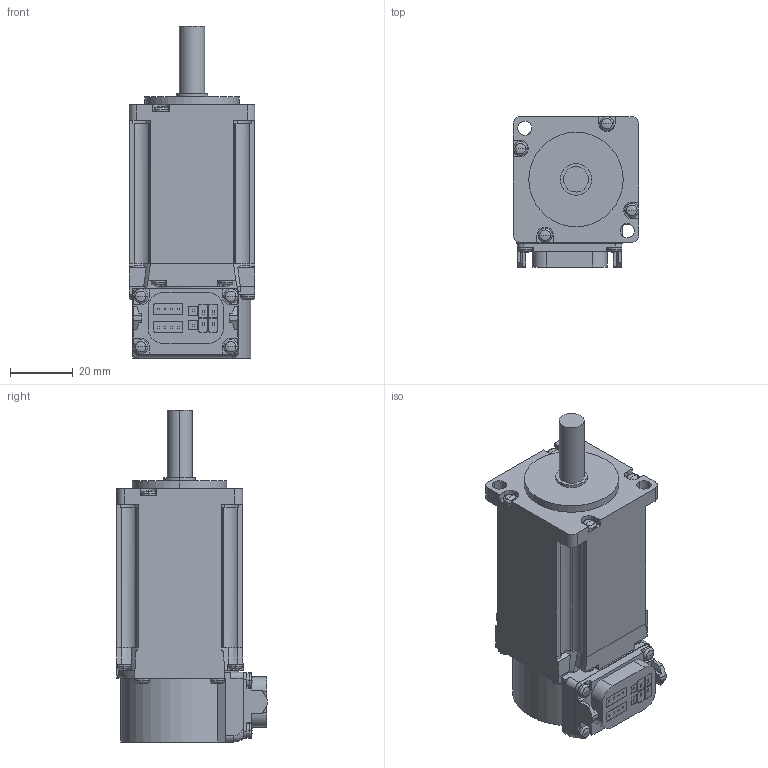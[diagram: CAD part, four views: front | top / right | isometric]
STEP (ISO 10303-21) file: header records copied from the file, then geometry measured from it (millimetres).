
FILE_DESCRIPTION((''),'2;1');
FILE_NAME('HK-KT1M3W_-_ASM','2019-01-15T',('XE90682'),(''),'CREO PARAMETRIC BY PTC INC, 2016380','CREO PARAMETRIC BY PTC INC, 2016380','');
FILE_SCHEMA(('CONFIG_CONTROL_DESIGN'));
Length unit declared in the file: millimetre
Products named in the file (1): HK-KT1M3W_-_ASM
Bounding box: 40 x 47.85 x 105.5 mm (x, y, z)
Volume: 117300.9 mm3; surface area: 17946.6 mm2
Topology: 1 solids, 1 shells, 466 faces, 1224 edges, 765 vertices
Faces by surface type: plane 251, cylinder 137, torus 34, sphere 32, bspline 12
Entity records: 14522 total; most frequent: CARTESIAN_POINT 2901, DIRECTION 2475, ORIENTED_EDGE 2384, EDGE_CURVE 1192, AXIS2_PLACEMENT_3D 854, VECTOR 767, LINE 767, VERTEX_POINT 765
